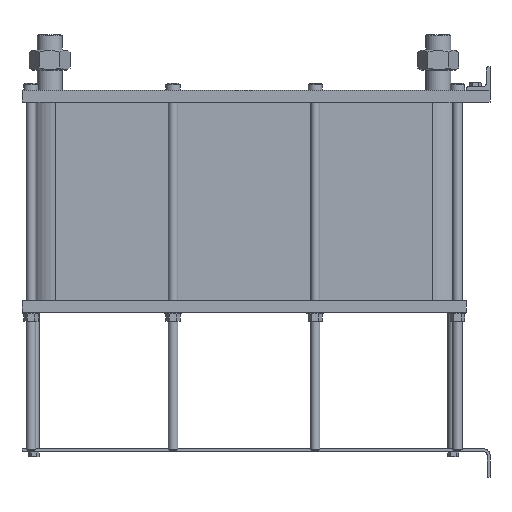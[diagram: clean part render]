
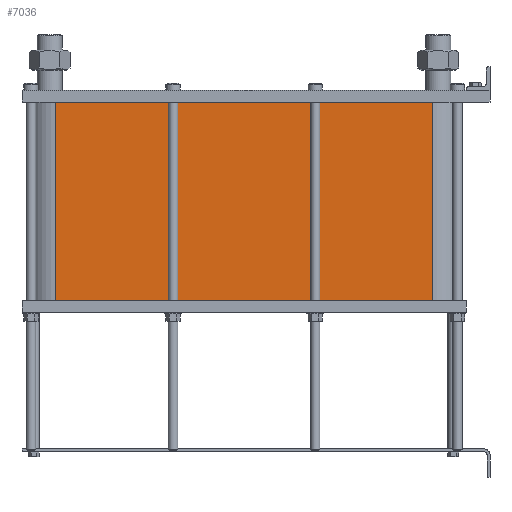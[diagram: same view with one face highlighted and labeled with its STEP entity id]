
A CAD part, left-side view. The second image highlights one B-rep face of the part: STEP entity #7036.
In plain terms, the highlighted planar face has unit normal (-1, 0, 0).
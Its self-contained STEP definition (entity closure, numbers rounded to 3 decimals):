
#999=LINE('',#15640,#1553);
#1031=LINE('',#15723,#1585);
#1032=LINE('',#15726,#1586);
#1033=LINE('',#15727,#1587);
#1553=VECTOR('',#9658,10.);
#1585=VECTOR('',#9736,10.);
#1586=VECTOR('',#9741,10.);
#1587=VECTOR('',#9742,10.);
#2117=FACE_OUTER_BOUND('',#2671,.T.);
#2671=EDGE_LOOP('',(#6246,#6247,#6248,#6249));
#3527=VERTEX_POINT('',#15634);
#3529=VERTEX_POINT('',#15638);
#3556=VERTEX_POINT('',#15720);
#3557=VERTEX_POINT('',#15722);
#4425=EDGE_CURVE('',#3529,#3527,#999,.T.);
#4466=EDGE_CURVE('',#3557,#3556,#1031,.T.);
#4468=EDGE_CURVE('',#3527,#3556,#1032,.T.);
#4469=EDGE_CURVE('',#3557,#3529,#1033,.T.);
#6246=ORIENTED_EDGE('',*,*,#4468,.F.);
#6247=ORIENTED_EDGE('',*,*,#4425,.F.);
#6248=ORIENTED_EDGE('',*,*,#4469,.F.);
#6249=ORIENTED_EDGE('',*,*,#4466,.T.);
#6608=PLANE('',#7812);
#7036=ADVANCED_FACE('',(#2117),#6608,.T.);
#7812=AXIS2_PLACEMENT_3D('',#15725,#9739,#9740);
#9658=DIRECTION('',(0.,0.,-1.));
#9736=DIRECTION('',(0.,0.,-1.));
#9739=DIRECTION('center_axis',(-1.,0.,0.));
#9740=DIRECTION('ref_axis',(0.,1.,0.));
#9741=DIRECTION('',(0.,1.,0.));
#9742=DIRECTION('',(0.,-1.,0.));
#15634=CARTESIAN_POINT('',(-72.,97.5,-334.8));
#15638=CARTESIAN_POINT('',(-72.,97.5,0.));
#15640=CARTESIAN_POINT('',(-72.,97.5,0.));
#15720=CARTESIAN_POINT('',(-72.,733.5,-334.8));
#15722=CARTESIAN_POINT('',(-72.,733.5,0.));
#15723=CARTESIAN_POINT('',(-72.,733.5,0.));
#15725=CARTESIAN_POINT('Origin',(-72.,97.5,0.));
#15726=CARTESIAN_POINT('',(-72.,256.5,-334.8));
#15727=CARTESIAN_POINT('',(-72.,733.5,0.));
